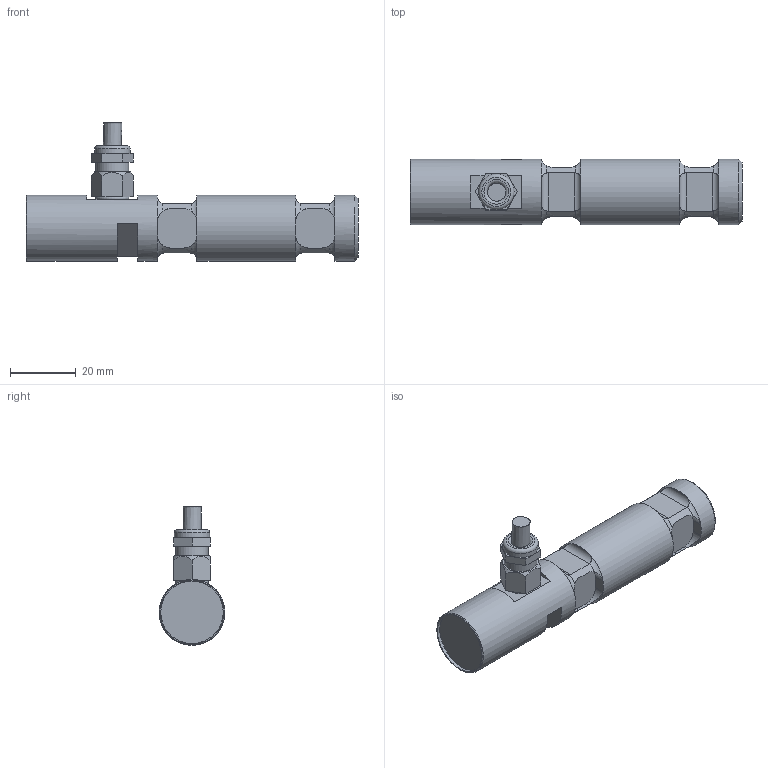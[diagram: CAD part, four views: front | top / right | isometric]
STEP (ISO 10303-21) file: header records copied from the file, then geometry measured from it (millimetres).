
FILE_DESCRIPTION(/* description */ ('Alibre Inc.'),/* implementation_level */ '2;1');
FILE_NAME(/* name */ 'export1',/* time_stamp */ '2018-01-11T10:58:34+01:00',/* author */ (''),/* organization */ (''),/* preprocessor_version */ 'ST-DEVELOPER v14',/* originating_system */ 'Alibre',/* authorisation */ '');
FILE_SCHEMA (('CONFIG_CONTROL_DESIGN'));
Length unit declared in the file: centimetre
Products named in the file (6): ID_1; ID_2; ID_3
Bounding box: 101 x 20 x 42.1 mm (x, y, z)
Volume: 29197.9 mm3; surface area: 9093.8 mm2
Topology: 4 solids, 4 shells, 131 faces, 310 edges, 193 vertices
Faces by surface type: plane 64, cylinder 42, torus 19, cone 5, bspline 1
Full cylindrical faces by diameter (mm): 5.5 x1, 6 x1, 6.917 x1, 8 x1, 10 x1, 10.8 x1, 19 x1, 20 x3
Entity records: 7256 total; most frequent: CARTESIAN_POINT 4107, ORIENTED_EDGE 570, DIRECTION 408, EDGE_CURVE 285, VERTEX_POINT 188, AXIS2_PLACEMENT_3D 176, FACE_BOUND 159, EDGE_LOOP 158
